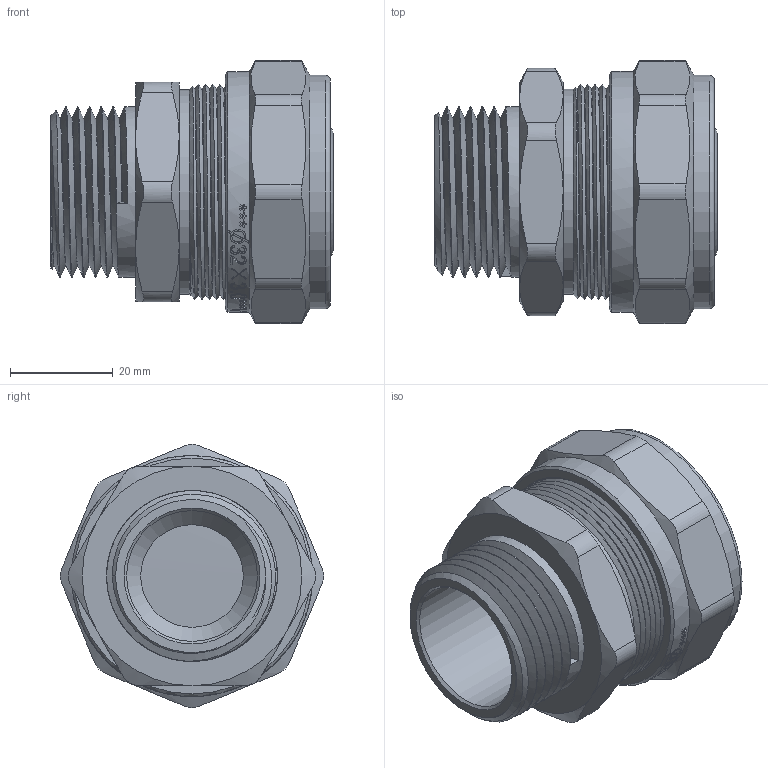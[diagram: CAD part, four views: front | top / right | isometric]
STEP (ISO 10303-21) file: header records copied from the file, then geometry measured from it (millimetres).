
FILE_DESCRIPTION(/* description */ (''),/* implementation_level */ '2;1');
FILE_NAME(/* name */ 'E:\Артём\00000\Работа удаленка\Обжимные фитинги\VTm.301.N.003206.stp',/* time_stamp */ '2020-06-08T15:03:36+03:00',/* author */ ('BeN_GaN'),/* organization */ (''),/* preprocessor_version */ 'ST-DEVELOPER v18',/* originating_system */ 'Autodesk Inventor 2020',/* authorisation */ '');
FILE_SCHEMA (('AUTOMOTIVE_DESIGN { 1 0 10303 214 3 1 1 }'));
Length unit declared in the file: millimetre
Products named in the file (1): VTm.301.N.003206
Bounding box: 55 x 51.3 x 51.3 mm (x, y, z)
Volume: 44013.7 mm3; surface area: 25444.4 mm2
Topology: 1 solids, 1 shells, 699 faces, 1985 edges, 1339 vertices
Faces by surface type: bspline 372, plane 174, cylinder 99, cone 30, torus 24
Full cylindrical faces by diameter (mm): 20 x1, 23.4 x2, 25.5 x1, 25.75 x5, 28.7 x6, 30.538 x4, 31.683 x5, 32.2 x1, 32.7 x1, 33.3 x5, 35.5 x1, 40 x1, 40.38 x6, 40.5 x1, 42 x1, 45.5 x1
Entity records: 31823 total; most frequent: CARTESIAN_POINT 16157, ORIENTED_EDGE 3970, DIRECTION 2052, EDGE_CURVE 1985, VERTEX_POINT 1339, B_SPLINE_CURVE_WITH_KNOTS 853, LINE 788, VECTOR 788
